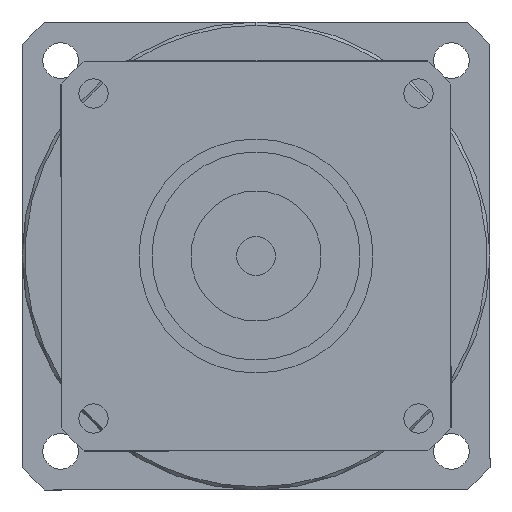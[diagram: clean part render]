
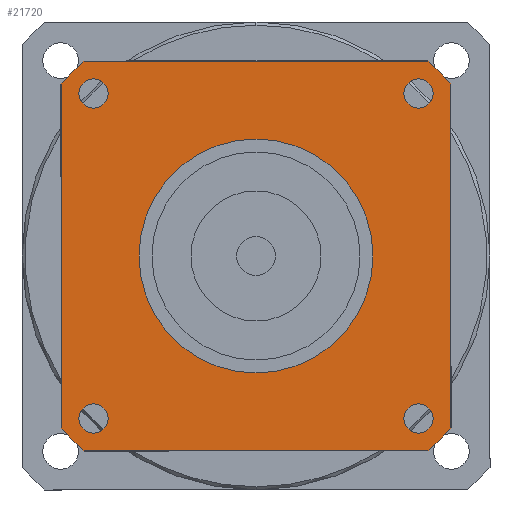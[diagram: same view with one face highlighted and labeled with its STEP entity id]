
A CAD part, left-side view. The second image highlights one B-rep face of the part: STEP entity #21720.
In plain terms, the highlighted planar face has unit normal (-1, 0, 0) as drawn and (0, 0, -1) by its records, which use the part's own axes.
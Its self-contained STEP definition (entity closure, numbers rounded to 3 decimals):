
#15830=CARTESIAN_POINT('',(26.458,30.,-91.));
#15840=VERTEX_POINT('',#15830);
#15870=CARTESIAN_POINT('',(0.,0.,
-91.));
#15880=DIRECTION('',(0.,0.,1.));
#15890=DIRECTION('',(0.,-1.,0.));
#15900=AXIS2_PLACEMENT_3D('',#15870,#15880,#15890);
#15910=CIRCLE('',#15900,40.);
#15920=CARTESIAN_POINT('',(30.,26.458,-91.));
#15930=VERTEX_POINT('',#15920);
#15940=EDGE_CURVE('',#15930,#15840,#15910,.T.);
#18330=CARTESIAN_POINT('',(-26.458,30.,-91.));
#18340=VERTEX_POINT('',#18330);
#18420=CARTESIAN_POINT('',(-30.,26.458,-91.));
#18430=VERTEX_POINT('',#18420);
#18460=CARTESIAN_POINT('',(0.,0.,
-91.));
#18470=DIRECTION('',(0.,0.,1.));
#18480=DIRECTION('',(0.,-1.,0.));
#18490=AXIS2_PLACEMENT_3D('',#18460,#18470,#18480);
#18500=CIRCLE('',#18490,40.);
#18510=EDGE_CURVE('',#18340,#18430,#18500,.T.);
#19020=CARTESIAN_POINT('',(-30.,-26.458,-91.));
#19030=VERTEX_POINT('',#19020);
#19110=CARTESIAN_POINT('',(-26.458,-30.,-91.));
#19120=VERTEX_POINT('',#19110);
#19150=CARTESIAN_POINT('',(0.,0.,
-91.));
#19160=DIRECTION('',(0.,0.,1.));
#19170=DIRECTION('',(0.,-1.,0.));
#19180=AXIS2_PLACEMENT_3D('',#19150,#19160,#19170);
#19190=CIRCLE('',#19180,40.);
#19200=EDGE_CURVE('',#19030,#19120,#19190,.T.);
#19670=CARTESIAN_POINT('',(26.458,-30.,-91.));
#19680=VERTEX_POINT('',#19670);
#19760=CARTESIAN_POINT('',(30.,-26.458,-91.));
#19770=VERTEX_POINT('',#19760);
#19800=CARTESIAN_POINT('',(0.,0.,
-91.));
#19810=DIRECTION('',(0.,0.,1.));
#19820=DIRECTION('',(0.,-1.,0.));
#19830=AXIS2_PLACEMENT_3D('',#19800,#19810,#19820);
#19840=CIRCLE('',#19830,40.);
#19850=EDGE_CURVE('',#19680,#19770,#19840,.T.);
#20000=CARTESIAN_POINT('',(30.,-30.,-91.));
#20010=DIRECTION('',(0.,1.,0.));
#20020=VECTOR('',#20010,1000.);
#20030=LINE('',#20000,#20020);
#20040=EDGE_CURVE('',#19770,#15930,#20030,.T.);
#20190=CARTESIAN_POINT('',(30.,30.,-91.));
#20200=DIRECTION('',(-1.,0.,0.));
#20210=VECTOR('',#20200,1000.);
#20220=LINE('',#20190,#20210);
#20230=EDGE_CURVE('',#15840,#18340,#20220,.T.);
#20370=CARTESIAN_POINT('',(-25.,22.75,-91.));
#20380=VERTEX_POINT('',#20370);
#20470=CARTESIAN_POINT('',(-25.,27.25,-91.));
#20480=VERTEX_POINT('',#20470);
#20510=CARTESIAN_POINT('',(-25.,25.,-91.));
#20520=DIRECTION('',(0.,0.,-1.));
#20530=DIRECTION('',(-1.,0.,0.));
#20540=AXIS2_PLACEMENT_3D('',#20510,#20520,#20530);
#20550=CIRCLE('',#20540,2.25);
#20560=CARTESIAN_POINT('',(-27.25,25.,-91.));
#20570=VERTEX_POINT('',#20560);
#20580=EDGE_CURVE('',#20570,#20480,#20550,.T.);
#20600=EDGE_CURVE('',#20380,#20570,#20550,.T.);
#20650=CARTESIAN_POINT('',(-30.,30.,-91.));
#20660=DIRECTION('',(0.,0.,1.));
#20670=DIRECTION('',(-1.,0.,0.));
#20680=AXIS2_PLACEMENT_3D('',#20650,#20660,#20670);
#20690=PLANE('',#20680);
#20700=CARTESIAN_POINT('',(25.,-25.,-91.));
#20710=DIRECTION('',(0.,0.,-1.));
#20720=DIRECTION('',(1.,0.,0.));
#20730=AXIS2_PLACEMENT_3D('',#20700,#20710,#20720);
#20740=CIRCLE('',#20730,2.25);
#20750=CARTESIAN_POINT('',(27.25,-25.,-91.));
#20760=VERTEX_POINT('',#20750);
#20770=CARTESIAN_POINT('',(25.,-27.25,-91.));
#20780=VERTEX_POINT('',#20770);
#20790=EDGE_CURVE('',#20760,#20780,#20740,.T.);
#20800=ORIENTED_EDGE('',*,*,#20790,.F.);
#20810=CARTESIAN_POINT('',(25.,-22.75,-91.));
#20820=VERTEX_POINT('',#20810);
#20830=EDGE_CURVE('',#20780,#20820,#20740,.T.);
#20840=ORIENTED_EDGE('',*,*,#20830,.F.);
#20850=EDGE_CURVE('',#20820,#20760,#20740,.T.);
#20860=ORIENTED_EDGE('',*,*,#20850,.F.);
#20870=EDGE_LOOP('',(#20860,#20840,#20800));
#20880=FACE_BOUND('',#20870,.T.);
#20890=CARTESIAN_POINT('',(25.,25.,-91.));
#20900=DIRECTION('',(0.,0.,-1.));
#20910=DIRECTION('',(0.,1.,0.));
#20920=AXIS2_PLACEMENT_3D('',#20890,#20900,#20910);
#20930=CIRCLE('',#20920,2.25);
#20940=CARTESIAN_POINT('',(25.,27.25,-91.));
#20950=VERTEX_POINT('',#20940);
#20960=CARTESIAN_POINT('',(27.25,25.,-91.));
#20970=VERTEX_POINT('',#20960);
#20980=EDGE_CURVE('',#20950,#20970,#20930,.T.);
#20990=ORIENTED_EDGE('',*,*,#20980,.F.);
#21000=CARTESIAN_POINT('',(22.75,25.,-91.));
#21010=VERTEX_POINT('',#21000);
#21020=EDGE_CURVE('',#20970,#21010,#20930,.T.);
#21030=ORIENTED_EDGE('',*,*,#21020,.F.);
#21040=EDGE_CURVE('',#21010,#20950,#20930,.T.);
#21050=ORIENTED_EDGE('',*,*,#21040,.F.);
#21060=EDGE_LOOP('',(#21050,#21030,#20990));
#21070=FACE_BOUND('',#21060,.T.);
#21080=ORIENTED_EDGE('',*,*,#20580,.F.);
#21090=EDGE_CURVE('',#20480,#20380,#20550,.T.);
#21100=ORIENTED_EDGE('',*,*,#21090,.F.);
#21110=ORIENTED_EDGE('',*,*,#20600,.F.);
#21120=EDGE_LOOP('',(#21110,#21100,#21080));
#21130=FACE_BOUND('',#21120,.T.);
#21140=CARTESIAN_POINT('',(-25.,-25.,-91.));
#21150=DIRECTION('',(0.,0.,-1.));
#21160=DIRECTION('',(0.,-1.,0.));
#21170=AXIS2_PLACEMENT_3D('',#21140,#21150,#21160);
#21180=CIRCLE('',#21170,2.25);
#21190=CARTESIAN_POINT('',(-25.,-27.25,-91.));
#21200=VERTEX_POINT('',#21190);
#21210=CARTESIAN_POINT('',(-27.25,-25.,-91.));
#21220=VERTEX_POINT('',#21210);
#21230=EDGE_CURVE('',#21200,#21220,#21180,.T.);
#21240=ORIENTED_EDGE('',*,*,#21230,.F.);
#21250=CARTESIAN_POINT('',(-22.75,-25.,-91.));
#21260=VERTEX_POINT('',#21250);
#21270=EDGE_CURVE('',#21220,#21260,#21180,.T.);
#21280=ORIENTED_EDGE('',*,*,#21270,.F.);
#21290=EDGE_CURVE('',#21260,#21200,#21180,.T.);
#21300=ORIENTED_EDGE('',*,*,#21290,.F.);
#21310=EDGE_LOOP('',(#21300,#21280,#21240));
#21320=FACE_BOUND('',#21310,.T.);
#21330=ORIENTED_EDGE('',*,*,#19200,.F.);
#21340=CARTESIAN_POINT('',(-30.,-30.,-91.));
#21350=DIRECTION('',(1.,0.,0.));
#21360=VECTOR('',#21350,1000.);
#21370=LINE('',#21340,#21360);
#21380=EDGE_CURVE('',#19120,#19680,#21370,.T.);
#21390=ORIENTED_EDGE('',*,*,#21380,.F.);
#21400=ORIENTED_EDGE('',*,*,#19850,.F.);
#21410=ORIENTED_EDGE('',*,*,#20040,.F.);
#21420=ORIENTED_EDGE('',*,*,#15940,.F.);
#21430=ORIENTED_EDGE('',*,*,#20230,.F.);
#21440=ORIENTED_EDGE('',*,*,#18510,.F.);
#21450=CARTESIAN_POINT('',(-30.,30.,-91.));
#21460=DIRECTION('',(0.,-1.,0.));
#21470=VECTOR('',#21460,1000.);
#21480=LINE('',#21450,#21470);
#21490=EDGE_CURVE('',#18430,#19030,#21480,.T.);
#21500=ORIENTED_EDGE('',*,*,#21490,.F.);
#21510=EDGE_LOOP('',(#21500,#21440,#21430,#21420,#21410,#21400,#21390,
#21330));
#21520=FACE_OUTER_BOUND('',#21510,.T.);
#21530=CARTESIAN_POINT('',(0.,0.,
-91.));
#21540=DIRECTION('',(0.,0.,1.));
#21550=DIRECTION('',(0.,-1.,0.));
#21560=AXIS2_PLACEMENT_3D('',#21530,#21540,#21550);
#21570=CIRCLE('',#21560,18.);
#21580=CARTESIAN_POINT('',(18.,0.,-91.));
#21590=VERTEX_POINT('',#21580);
#21600=CARTESIAN_POINT('',(-18.,0.,-91.));
#21610=VERTEX_POINT('',#21600);
#21620=EDGE_CURVE('',#21590,#21610,#21570,.T.);
#21630=ORIENTED_EDGE('',*,*,#21620,.T.);
#21640=CARTESIAN_POINT('',(0.,-18.,-91.));
#21650=VERTEX_POINT('',#21640);
#21660=EDGE_CURVE('',#21650,#21590,#21570,.T.);
#21670=ORIENTED_EDGE('',*,*,#21660,.T.);
#21680=EDGE_CURVE('',#21610,#21650,#21570,.T.);
#21690=ORIENTED_EDGE('',*,*,#21680,.T.);
#21700=EDGE_LOOP('',(#21690,#21670,#21630));
#21710=FACE_BOUND('',#21700,.T.);
#21720=ADVANCED_FACE('',(#20880,#21070,#21130,#21320,#21520,#21710),
#20690,.F.);
